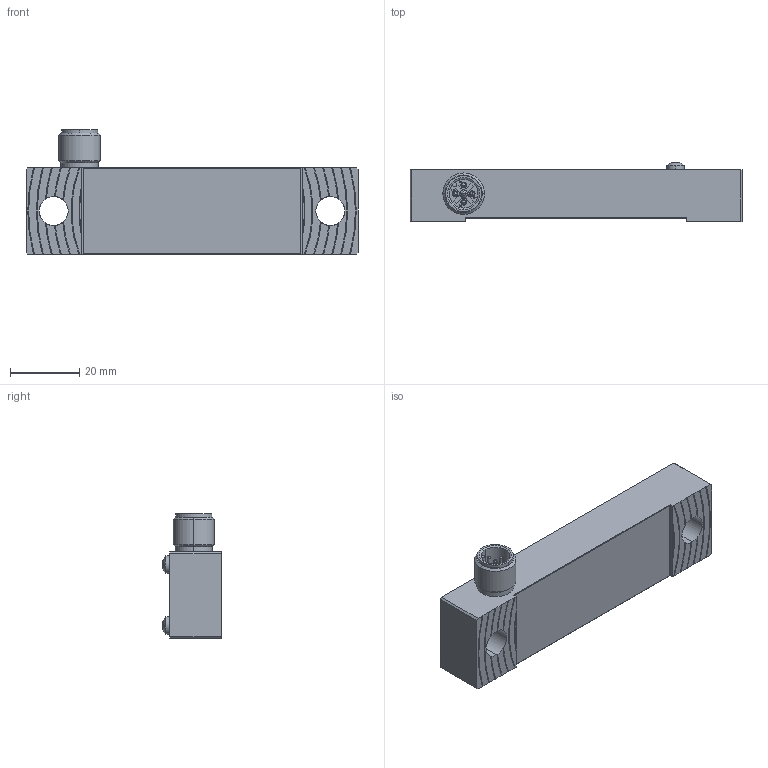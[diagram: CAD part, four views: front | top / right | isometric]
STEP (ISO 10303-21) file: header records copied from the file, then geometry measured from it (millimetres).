
FILE_DESCRIPTION (( 'STEP AP203' ), '1' );
FILE_NAME ('ZM-00910_00.STEP', '2024-02-09T08:53:18', ( '' ), ( '' ), 'SwSTEP 2.0', 'SolidWorks 2024', '' );
FILE_SCHEMA (( 'CONFIG_CONTROL_DESIGN' ));
Length unit declared in the file: millimetre
Products named in the file (6): ZM-00712_00; ZN-40198_00; ZV-30032_00; ZM-00871_00_Dummy; ZM-00910_00; ZN-40148_00
Assembly tree (6 placements, depth 2):
  ZM-00910_00
    ZM-00871_00_Dummy
    ZN-40148_00
    ZM-00712_00
    ZN-40198_00
    ZV-30032_00  x2
Bounding box: 96 x 17.05 x 36 mm (x, y, z)
Volume: 33141 mm3; surface area: 17929.6 mm2
Topology: 6 solids, 6 shells, 453 faces, 1206 edges, 764 vertices
Faces by surface type: plane 181, cylinder 142, cone 72, bspline 34, sphere 14, torus 10
Entity records: 14973 total; most frequent: CARTESIAN_POINT 4311, ORIENTED_EDGE 2120, DIRECTION 2079, EDGE_CURVE 1060, AXIS2_PLACEMENT_3D 783, VERTEX_POINT 692, VECTOR 513, LINE 513
